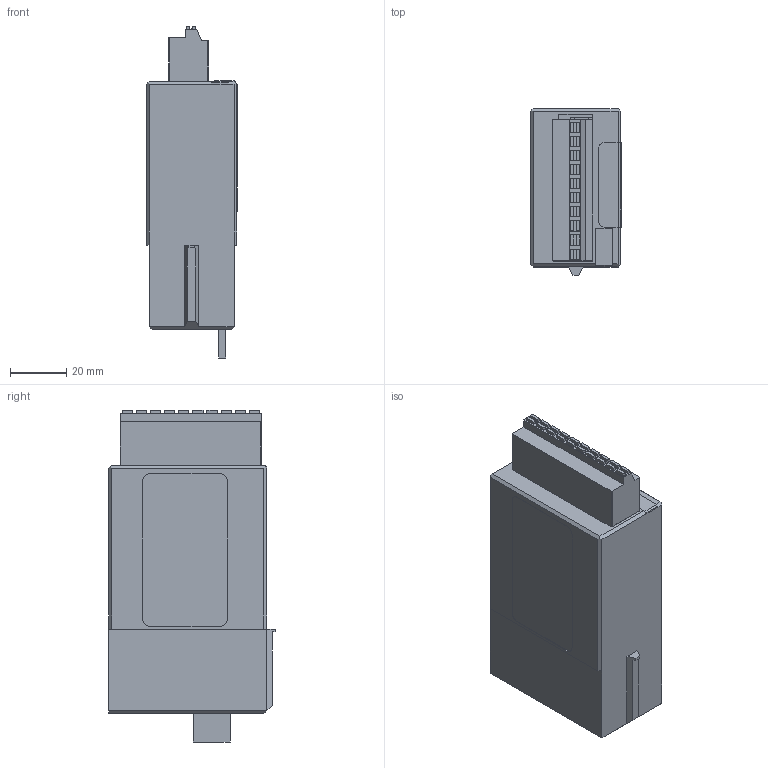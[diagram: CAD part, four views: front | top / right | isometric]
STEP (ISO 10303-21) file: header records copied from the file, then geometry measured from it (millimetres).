
FILE_DESCRIPTION(('CAx-IF Rec.Pracs.---Model Styling and Organization---1.5---2016-08-15','CAx-IF Rec.Pracs.---Geometric and Assembly Validation Properties---4.4---2016-08-17','CAx-IF Rec.Pracs.---User Defined Attributes---1.5---2016-08-15','CAx-IF Rec.Pracs.---External References---2.1---2005-01-19'),'2;1');
FILE_NAME('SBC_STP_PLC_PCD3W360-Plug-A_2020-02-15.stp','2021-01-01T18:43:06',('Unspecified'),('Unspecified'),'CAD Exchanger 3.9.0 (cadexchanger.com)','Unspecified','');
FILE_SCHEMA(('AUTOMOTIVE_DESIGN { 1 0 10303 214 1 1 1 1 }'));
Length unit declared in the file: millimetre
Products named in the file (19): Geh䵳e; Noppe004; Noppe005; Noppe003; Buchse_A; Bus; Label; Noppe001; Leiterplatte; Plug_A-10; Noppe006; Noppe009; Noppe002; Noppe008; Noppe010; Noppe007; Etikette_unten; Etikette_oben; Etikette_in_der_Schr䧥
Bounding box: 32.2 x 59 x 117.6 mm (x, y, z)
Volume: 65140.1 mm3; surface area: 54844.6 mm2
Topology: 19 solids, 19 shells, 234 faces, 571 edges, 378 vertices
Faces by surface type: plane 220, cylinder 14
Entity records: 7032 total; most frequent: CARTESIAN_POINT 1184, ORIENTED_EDGE 1142, DIRECTION 1069, EDGE_CURVE 571, LINE 543, VECTOR 543, VERTEX_POINT 378, AXIS2_PLACEMENT_3D 263
